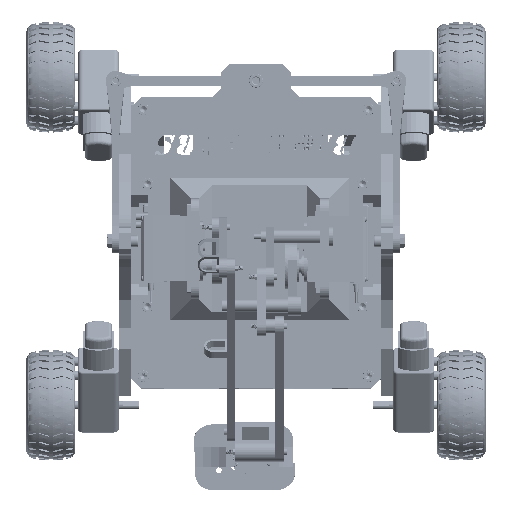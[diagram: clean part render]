
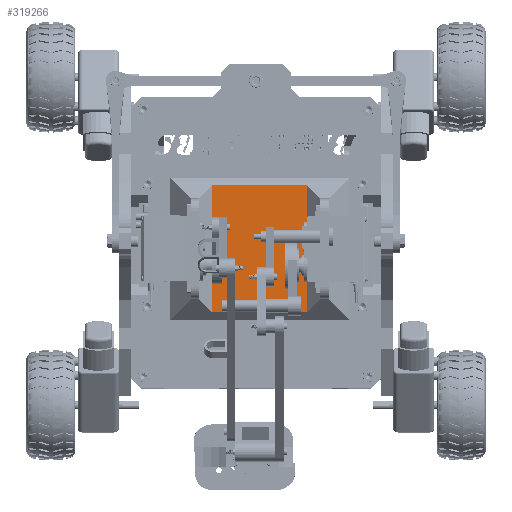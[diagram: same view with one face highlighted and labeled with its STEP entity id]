
A CAD part, top view. The second image highlights one B-rep face of the part: STEP entity #319266.
In plain terms, the highlighted planar face has unit normal (0, 0, 1).
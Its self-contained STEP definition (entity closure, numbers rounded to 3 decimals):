
#32401=PLANE('',#337201);
#46279=FACE_OUTER_BOUND('',#64786,.T.);
#64786=EDGE_LOOP('',(#269087,#269088,#269089,#269090));
#94378=LINE('',#538967,#124779);
#94391=LINE('',#538993,#124792);
#94446=LINE('',#539139,#124847);
#94448=LINE('',#539142,#124849);
#124779=VECTOR('',#389946,10.);
#124792=VECTOR('',#389965,10.);
#124847=VECTOR('',#390120,10.);
#124849=VECTOR('',#390124,10.);
#155279=VERTEX_POINT('',#538963);
#155281=VERTEX_POINT('',#538966);
#155289=VERTEX_POINT('',#538989);
#155291=VERTEX_POINT('',#538992);
#195256=EDGE_CURVE('',#155281,#155279,#94378,.F.);
#195269=EDGE_CURVE('',#155291,#155289,#94391,.F.);
#195342=EDGE_CURVE('',#155291,#155279,#94446,.T.);
#195344=EDGE_CURVE('',#155281,#155289,#94448,.T.);
#269087=ORIENTED_EDGE('',*,*,#195342,.F.);
#269088=ORIENTED_EDGE('',*,*,#195269,.T.);
#269089=ORIENTED_EDGE('',*,*,#195344,.F.);
#269090=ORIENTED_EDGE('',*,*,#195256,.T.);
#319266=ADVANCED_FACE('',(#46279),#32401,.T.);
#337201=AXIS2_PLACEMENT_3D('',#539141,#390122,#390123);
#389946=DIRECTION('',(0.,-1.,0.));
#389965=DIRECTION('',(0.,1.,0.));
#390120=DIRECTION('',(1.,0.,0.));
#390122=DIRECTION('center_axis',(0.,0.,1.));
#390123=DIRECTION('ref_axis',(1.,0.,0.));
#390124=DIRECTION('',(-1.,0.,0.));
#538963=CARTESIAN_POINT('',(28.6,30.,80.));
#538966=CARTESIAN_POINT('',(28.6,-28.,80.));
#538967=CARTESIAN_POINT('',(28.6,-28.575,80.));
#538989=CARTESIAN_POINT('',(-48.9,-28.,80.));
#538992=CARTESIAN_POINT('',(-48.9,30.,80.));
#538993=CARTESIAN_POINT('',(-48.9,-7.575,80.));
#539139=CARTESIAN_POINT('',(-25.525,30.,80.));
#539141=CARTESIAN_POINT('Origin',(-40.9,-36.,80.));
#539142=CARTESIAN_POINT('',(-32.025,-28.,80.));
